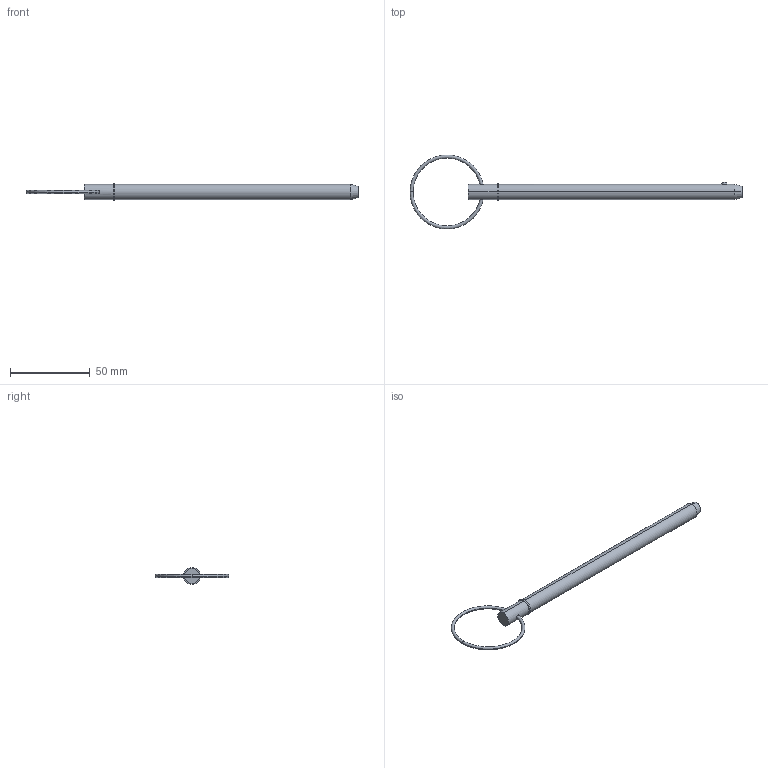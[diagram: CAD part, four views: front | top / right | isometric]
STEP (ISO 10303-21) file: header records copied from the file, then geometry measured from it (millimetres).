
FILE_DESCRIPTION (( 'STEP AP203' ), '1' );
FILE_NAME ('33014.W3755.step', '2024-11-04T08:27:32', ( '' ), ( '' ), 'SwSTEP 2.0', 'SolidWorks 2019', '' );
FILE_SCHEMA (( 'CONFIG_CONTROL_DESIGN' ));
Length unit declared in the file: millimetre
Products named in the file (3): Part2_33014.W3755; Part1_33014.W3755; 33014.W3755
Assembly tree (2 placements, depth 2):
  33014.W3755
    Part1_33014.W3755
    Part2_33014.W3755
Bounding box: 208.03 x 46.36 x 10.48 mm (x, y, z)
Volume: 12534.9 mm3; surface area: 6169.1 mm2
Topology: 2 solids, 2 shells, 22 faces, 43 edges, 26 vertices
Faces by surface type: torus 8, cylinder 6, plane 4, sphere 2, cone 2
Entity records: 1005 total; most frequent: CARTESIAN_POINT 228, DIRECTION 120, ORIENTED_EDGE 86, AXIS2_PLACEMENT_3D 56, EDGE_CURVE 43, CIRCLE 29, EDGE_LOOP 27, PERSON_AND_ORGANIZATION 26
